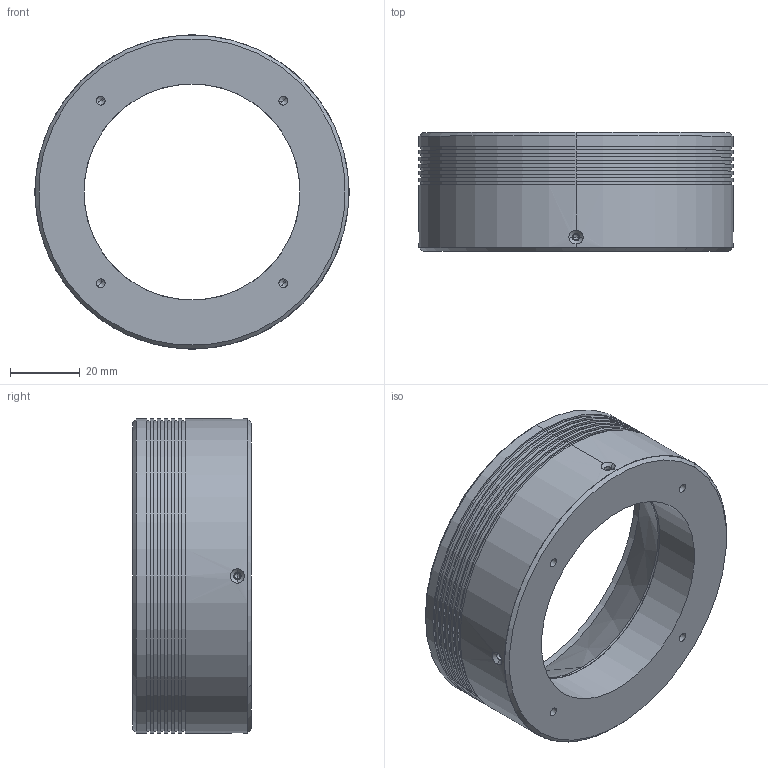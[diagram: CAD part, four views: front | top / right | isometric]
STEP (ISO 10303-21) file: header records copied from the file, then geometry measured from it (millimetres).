
FILE_DESCRIPTION (( 'STEP AP203' ), '1' );
FILE_NAME ('LRD-RS90-假蚾芞.STEP', '2021-03-09T07:00:39', ( '' ), ( '' ), 'SwSTEP 2.0', 'SolidWorks 2018', '' );
FILE_SCHEMA (( 'CONFIG_CONTROL_DESIGN' ));
Length unit declared in the file: millimetre
Products named in the file (4): LRD-RS90-B; LRD-RS90-假蚾芞; LRD-RS90-鞦扞啣; LRD-RS90-A
Assembly tree (3 placements, depth 2):
  LRD-RS90-假蚾芞
    LRD-RS90-A
    LRD-RS90-B
    LRD-RS90-鞦扞啣
Bounding box: 90 x 34 x 90 mm (x, y, z)
Volume: 67292.5 mm3; surface area: 47387.6 mm2
Topology: 3 solids, 3 shells, 132 faces, 316 edges, 188 vertices
Faces by surface type: cylinder 73, cone 28, plane 23, bspline 8
Entity records: 7436 total; most frequent: CARTESIAN_POINT 4060, DIRECTION 636, ORIENTED_EDGE 588, EDGE_CURVE 294, AXIS2_PLACEMENT_3D 262, VERTEX_POINT 188, EDGE_LOOP 166, CIRCLE 132
